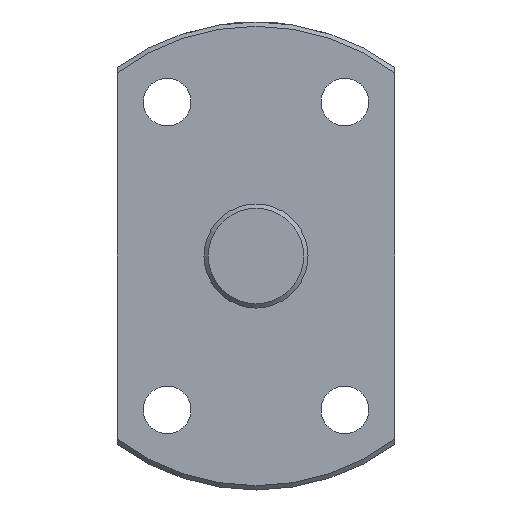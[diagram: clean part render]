
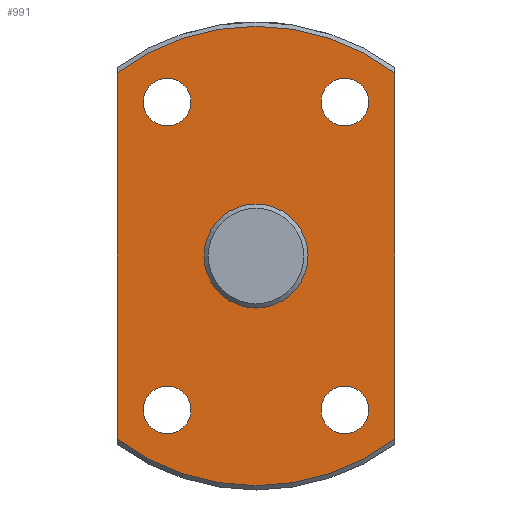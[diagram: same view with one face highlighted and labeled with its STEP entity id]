
A CAD part, left-side view. The second image highlights one B-rep face of the part: STEP entity #991.
In plain terms, the highlighted planar face has unit normal (-1, 0, 0).
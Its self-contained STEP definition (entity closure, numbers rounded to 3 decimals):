
#306=CARTESIAN_POINT('',(160.427,-16.,21.125));
#307=VERTEX_POINT('',#306);
#332=CARTESIAN_POINT('',(160.427,16.,21.125));
#333=VERTEX_POINT('',#332);
#347=CARTESIAN_POINT('',(160.427,0.0,0.0));
#348=DIRECTION('',(1.0,0.0,0.0));
#349=DIRECTION('',(0.0,1.0,0.0));
#350=AXIS2_PLACEMENT_3D('',#347,#348,#349);
#351=CIRCLE('',#350,26.5);
#352=EDGE_CURVE('',#333,#307,#351,.T.);
#475=CARTESIAN_POINT('',(160.427,-16.,-21.125));
#476=VERTEX_POINT('',#475);
#477=CARTESIAN_POINT('',(160.427,-16.,21.125));
#478=DIRECTION('',(0.0,0.0,-1.0));
#479=VECTOR('',#478,42.249);
#480=LINE('',#477,#479);
#481=EDGE_CURVE('',#307,#476,#480,.T.);
#551=CARTESIAN_POINT('',(160.427,16.,-21.125));
#552=VERTEX_POINT('',#551);
#576=CARTESIAN_POINT('',(160.427,0.0,0.0));
#577=DIRECTION('',(1.0,0.0,0.0));
#578=DIRECTION('',(0.0,1.0,0.0));
#579=AXIS2_PLACEMENT_3D('',#576,#577,#578);
#580=CIRCLE('',#579,26.5);
#581=EDGE_CURVE('',#476,#552,#580,.T.);
#656=CARTESIAN_POINT('',(160.427,16.,-21.125));
#657=DIRECTION('',(0.0,0.0,1.0));
#658=VECTOR('',#657,42.249);
#659=LINE('',#656,#658);
#660=EDGE_CURVE('',#552,#333,#659,.T.);
#873=CARTESIAN_POINT('',(160.427,6.,0.));
#874=VERTEX_POINT('',#873);
#875=CARTESIAN_POINT('',(160.427,0.0,0.0));
#876=DIRECTION('',(1.0,0.0,0.0));
#877=DIRECTION('',(0.0,-1.0,0.0));
#878=AXIS2_PLACEMENT_3D('',#875,#876,#877);
#879=CIRCLE('',#878,6.);
#880=EDGE_CURVE('',#874,#874,#879,.T.);
#893=CARTESIAN_POINT('',(160.427,13.,-17.754));
#894=VERTEX_POINT('',#893);
#895=CARTESIAN_POINT('',(160.427,10.25,-17.754));
#896=DIRECTION('',(1.0,0.0,0.0));
#897=DIRECTION('',(0.0,1.0,0.0));
#898=AXIS2_PLACEMENT_3D('',#895,#896,#897);
#899=CIRCLE('',#898,2.75);
#900=EDGE_CURVE('',#894,#894,#899,.T.);
#913=CARTESIAN_POINT('',(160.427,-7.5,17.754));
#914=VERTEX_POINT('',#913);
#915=CARTESIAN_POINT('',(160.427,-10.25,17.754));
#916=DIRECTION('',(1.0,0.0,0.0));
#917=DIRECTION('',(0.0,1.0,0.0));
#918=AXIS2_PLACEMENT_3D('',#915,#916,#917);
#919=CIRCLE('',#918,2.75);
#920=EDGE_CURVE('',#914,#914,#919,.T.);
#933=CARTESIAN_POINT('',(160.427,13.,17.754));
#934=VERTEX_POINT('',#933);
#935=CARTESIAN_POINT('',(160.427,10.25,17.754));
#936=DIRECTION('',(1.0,0.0,0.0));
#937=DIRECTION('',(0.0,1.0,0.0));
#938=AXIS2_PLACEMENT_3D('',#935,#936,#937);
#939=CIRCLE('',#938,2.75);
#940=EDGE_CURVE('',#934,#934,#939,.T.);
#953=CARTESIAN_POINT('',(160.427,-7.5,-17.754));
#954=VERTEX_POINT('',#953);
#955=CARTESIAN_POINT('',(160.427,-10.25,-17.754));
#956=DIRECTION('',(1.0,0.0,0.0));
#957=DIRECTION('',(0.0,1.0,0.0));
#958=AXIS2_PLACEMENT_3D('',#955,#956,#957);
#959=CIRCLE('',#958,2.75);
#960=EDGE_CURVE('',#954,#954,#959,.T.);
#965=CARTESIAN_POINT('',(160.427,0.0,0.0));
#966=DIRECTION('',(-1.0,0.0,0.0));
#967=DIRECTION('',(0.0,0.0,1.0));
#968=AXIS2_PLACEMENT_3D('',#965,#966,#967);
#969=PLANE('',#968);
#970=ORIENTED_EDGE('',*,*,#352,.F.);
#971=ORIENTED_EDGE('',*,*,#660,.F.);
#972=ORIENTED_EDGE('',*,*,#581,.F.);
#973=ORIENTED_EDGE('',*,*,#481,.F.);
#974=EDGE_LOOP('',(#970,#971,#972,#973));
#975=FACE_OUTER_BOUND('',#974,.T.);
#976=ORIENTED_EDGE('',*,*,#880,.T.);
#977=EDGE_LOOP('',(#976));
#978=FACE_BOUND('',#977,.T.);
#979=ORIENTED_EDGE('',*,*,#900,.T.);
#980=EDGE_LOOP('',(#979));
#981=FACE_BOUND('',#980,.T.);
#982=ORIENTED_EDGE('',*,*,#920,.T.);
#983=EDGE_LOOP('',(#982));
#984=FACE_BOUND('',#983,.T.);
#985=ORIENTED_EDGE('',*,*,#940,.T.);
#986=EDGE_LOOP('',(#985));
#987=FACE_BOUND('',#986,.T.);
#988=ORIENTED_EDGE('',*,*,#960,.T.);
#989=EDGE_LOOP('',(#988));
#990=FACE_BOUND('',#989,.T.);
#991=ADVANCED_FACE('',(#975,#978,#981,#984,#987,#990),#969,.T.);
